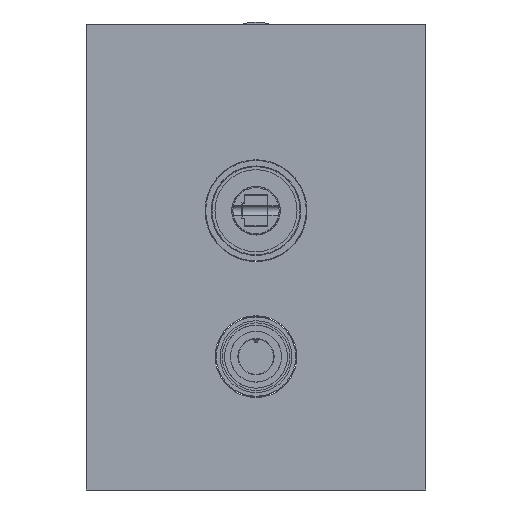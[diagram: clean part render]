
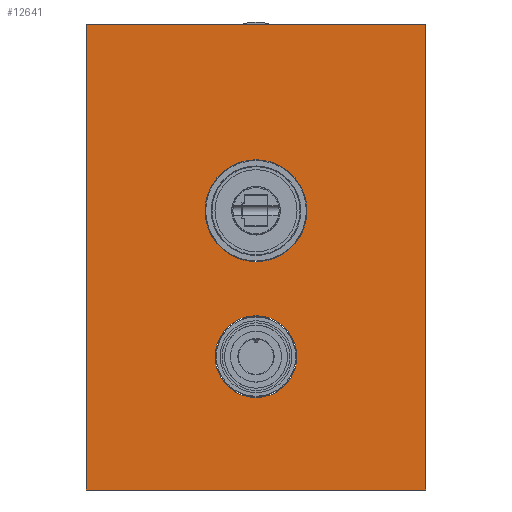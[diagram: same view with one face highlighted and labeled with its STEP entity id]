
A CAD part, front view. The second image highlights one B-rep face of the part: STEP entity #12641.
In plain terms, the highlighted planar face has unit normal (0, -1, 0).
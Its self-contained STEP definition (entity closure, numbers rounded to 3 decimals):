
#12467=DIRECTION('',(0.,0.,-1.));
#12468=VECTOR('',#12467,185.);
#12469=CARTESIAN_POINT('',(67.5,-17.,74.));
#12470=LINE('',#12469,#12468);
#12471=DIRECTION('',(-1.,0.,0.));
#12472=VECTOR('',#12471,135.);
#12473=CARTESIAN_POINT('',(67.5,-17.,-111.));
#12474=LINE('',#12473,#12472);
#12475=DIRECTION('',(0.,0.,1.));
#12476=VECTOR('',#12475,185.);
#12477=CARTESIAN_POINT('',(-67.5,-17.,-111.));
#12478=LINE('',#12477,#12476);
#12479=DIRECTION('',(1.,0.,0.));
#12480=VECTOR('',#12479,135.);
#12481=CARTESIAN_POINT('',(-67.5,-17.,74.));
#12482=LINE('',#12481,#12480);
#12483=CARTESIAN_POINT('',(0.,-17.,-58.));
#12484=DIRECTION('',(0.,1.,0.));
#12485=DIRECTION('',(-1.,0.,0.));
#12486=AXIS2_PLACEMENT_3D('',#12483,#12484,#12485);
#12488=CARTESIAN_POINT('',(0.,-17.,-58.));
#12489=DIRECTION('',(0.,1.,0.));
#12490=DIRECTION('',(1.,0.,0.));
#12491=AXIS2_PLACEMENT_3D('',#12488,#12489,#12490);
#12493=CARTESIAN_POINT('',(0.,-17.,0.));
#12494=DIRECTION('',(0.,1.,0.));
#12495=DIRECTION('',(-1.,0.,0.));
#12496=AXIS2_PLACEMENT_3D('',#12493,#12494,#12495);
#12498=CARTESIAN_POINT('',(0.,-17.,0.));
#12499=DIRECTION('',(0.,1.,0.));
#12500=DIRECTION('',(1.,0.,0.));
#12501=AXIS2_PLACEMENT_3D('',#12498,#12499,#12500);
#12567=CARTESIAN_POINT('',(67.5,-17.,74.));
#12568=CARTESIAN_POINT('',(67.5,-17.,-111.));
#12569=VERTEX_POINT('',#12567);
#12570=VERTEX_POINT('',#12568);
#12571=CARTESIAN_POINT('',(-67.5,-17.,-111.));
#12572=VERTEX_POINT('',#12571);
#12573=CARTESIAN_POINT('',(-67.5,-17.,74.));
#12574=VERTEX_POINT('',#12573);
#12583=CARTESIAN_POINT('',(-16.25,-17.,-58.));
#12584=CARTESIAN_POINT('',(16.25,-17.,-58.));
#12585=VERTEX_POINT('',#12583);
#12586=VERTEX_POINT('',#12584);
#12587=CARTESIAN_POINT('',(-20.25,-17.,0.));
#12588=CARTESIAN_POINT('',(20.25,-17.,0.));
#12589=VERTEX_POINT('',#12587);
#12590=VERTEX_POINT('',#12588);
#12615=CARTESIAN_POINT('',(0.,-17.,-18.5));
#12616=DIRECTION('',(0.,1.,0.));
#12617=DIRECTION('',(-1.,0.,0.));
#12618=AXIS2_PLACEMENT_3D('',#12615,#12616,#12617);
#12619=PLANE('',#12618);
#12621=ORIENTED_EDGE('',*,*,#12620,.T.);
#12623=ORIENTED_EDGE('',*,*,#12622,.T.);
#12625=ORIENTED_EDGE('',*,*,#12624,.T.);
#12627=ORIENTED_EDGE('',*,*,#12626,.T.);
#12628=EDGE_LOOP('',(#12621,#12623,#12625,#12627));
#12629=FACE_OUTER_BOUND('',#12628,.F.);
#12631=ORIENTED_EDGE('',*,*,#12630,.F.);
#12633=ORIENTED_EDGE('',*,*,#12632,.F.);
#12634=EDGE_LOOP('',(#12631,#12633));
#12635=FACE_BOUND('',#12634,.F.);
#12637=ORIENTED_EDGE('',*,*,#12636,.F.);
#12638=ORIENTED_EDGE('',*,*,#12604,.F.);
#12639=EDGE_LOOP('',(#12637,#12638));
#12640=FACE_BOUND('',#12639,.F.);
#12641=ADVANCED_FACE('',(#12629,#12635,#12640),#12619,.F.);
#12487=CIRCLE('',#12486,16.25);
#12492=CIRCLE('',#12491,16.25);
#12497=CIRCLE('',#12496,20.25);
#12502=CIRCLE('',#12501,20.25);
#12604=EDGE_CURVE('',#12590,#12589,#12502,.T.);
#12620=EDGE_CURVE('',#12569,#12570,#12470,.T.);
#12622=EDGE_CURVE('',#12570,#12572,#12474,.T.);
#12624=EDGE_CURVE('',#12572,#12574,#12478,.T.);
#12626=EDGE_CURVE('',#12574,#12569,#12482,.T.);
#12630=EDGE_CURVE('',#12585,#12586,#12487,.T.);
#12632=EDGE_CURVE('',#12586,#12585,#12492,.T.);
#12636=EDGE_CURVE('',#12589,#12590,#12497,.T.);
